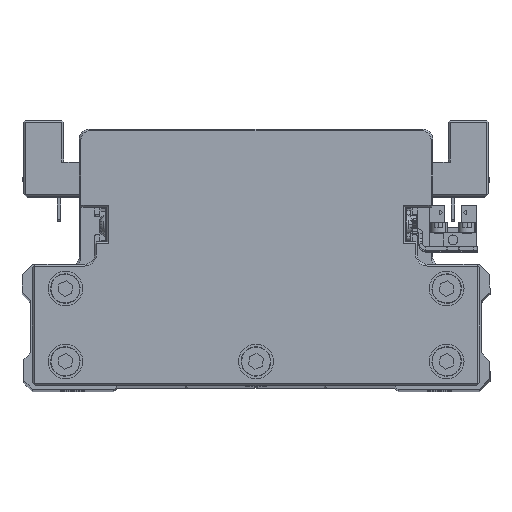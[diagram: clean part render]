
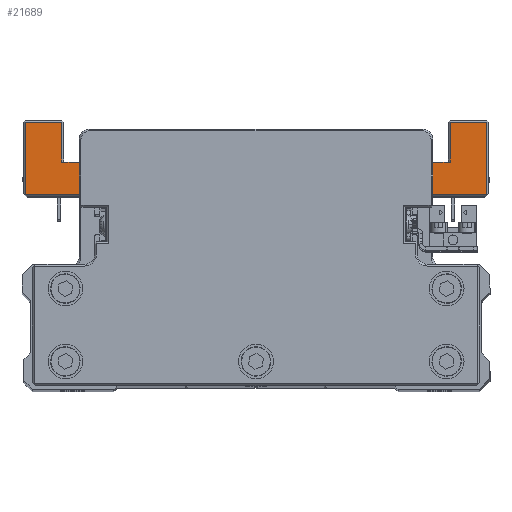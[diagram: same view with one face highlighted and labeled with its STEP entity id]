
A CAD part, top view. The second image highlights one B-rep face of the part: STEP entity #21689.
In plain terms, the highlighted planar face has unit normal (0, 0, 1) as drawn and (0, -1, 0) by its records, which use the part's own axes.
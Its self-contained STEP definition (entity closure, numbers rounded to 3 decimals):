
#135 = CARTESIAN_POINT ( 'NONE',  ( 66.5, -45., -43.5 ) ) ;
#175 = ORIENTED_EDGE ( 'NONE', *, *, #20794, .T. ) ;
#372 = VERTEX_POINT ( 'NONE', #32879 ) ;
#803 = DIRECTION ( 'NONE',  ( 0., 0., -1. ) ) ;
#1224 = EDGE_CURVE ( 'NONE', #29330, #22695, #23837, .T. ) ;
#1340 = VERTEX_POINT ( 'NONE', #36947 ) ;
#1462 = PLANE ( 'NONE',  #22823 ) ;
#1888 = LINE ( 'NONE', #14011, #21582 ) ;
#1950 = AXIS2_PLACEMENT_3D ( 'NONE', #17179, #29307, #2074 ) ;
#2074 = DIRECTION ( 'NONE',  ( 0., 0., -1. ) ) ;
#2322 = EDGE_CURVE ( 'NONE', #22695, #23311, #32211, .T. ) ;
#2438 = CARTESIAN_POINT ( 'NONE',  ( 67., -45., -64. ) ) ;
#2682 = CARTESIAN_POINT ( 'NONE',  ( -39.868, -45., -42.987 ) ) ;
#2896 = CARTESIAN_POINT ( 'NONE',  ( 46., -45., -54. ) ) ;
#3045 = VECTOR ( 'NONE', #33876, 1000. ) ;
#3275 = EDGE_CURVE ( 'NONE', #7203, #35174, #1888, .T. ) ;
#3943 = EDGE_CURVE ( 'NONE', #7203, #14654, #10500, .T. ) ;
#4073 = CARTESIAN_POINT ( 'NONE',  ( 40.066, -45., -43. ) ) ;
#4079 = VERTEX_POINT ( 'NONE', #17457 ) ;
#4678 = CARTESIAN_POINT ( 'NONE',  ( 46., -45., -52.5 ) ) ;
#4962 = CARTESIAN_POINT ( 'NONE',  ( -77.786, -45., -42.5 ) ) ;
#5493 = EDGE_CURVE ( 'NONE', #8004, #4079, #27388, .T. ) ;
#6017 = CARTESIAN_POINT ( 'NONE',  ( -46., -45., -52.5 ) ) ;
#6216 = CARTESIAN_POINT ( 'NONE',  ( -56., -45., -52.5 ) ) ;
#6358 = CARTESIAN_POINT ( 'NONE',  ( -66.5, -45., -43. ) ) ;
#6458 = CARTESIAN_POINT ( 'NONE',  ( 56., -45., -52.5 ) ) ;
#6870 = CARTESIAN_POINT ( 'NONE',  ( -55.5, -45., -52.5 ) ) ;
#6995 = DIRECTION ( 'NONE',  ( 1., 0., 0. ) ) ;
#7110 = EDGE_CURVE ( 'NONE', #23311, #12878, #29920, .T. ) ;
#7203 = VERTEX_POINT ( 'NONE', #6458 ) ;
#7554 = EDGE_CURVE ( 'NONE', #22427, #37991, #38649, .T. ) ;
#7661 = VERTEX_POINT ( 'NONE', #6216 ) ;
#7786 = CARTESIAN_POINT ( 'NONE',  ( 56., -45., -64. ) ) ;
#8004 = VERTEX_POINT ( 'NONE', #24221 ) ;
#8006 = ORIENTED_EDGE ( 'NONE', *, *, #17438, .T. ) ;
#8705 = DIRECTION ( 'NONE',  ( -0.991, 0., 0.132 ) ) ;
#8795 = CARTESIAN_POINT ( 'NONE',  ( -40.066, -45., -43. ) ) ;
#8898 = VECTOR ( 'NONE', #12269, 1000. ) ;
#9105 = EDGE_CURVE ( 'NONE', #35174, #372, #31925, .T. ) ;
#9511 = ORIENTED_EDGE ( 'NONE', *, *, #7554, .T. ) ;
#9595 = LINE ( 'NONE', #21741, #3045 ) ;
#9836 = LINE ( 'NONE', #21975, #27584 ) ;
#10109 = VECTOR ( 'NONE', #18153, 1000. ) ;
#10410 = AXIS2_PLACEMENT_3D ( 'NONE', #15918, #28048, #803 ) ;
#10500 = LINE ( 'NONE', #22640, #38673 ) ;
#10510 = LINE ( 'NONE', #22650, #17601 ) ;
#11393 = CARTESIAN_POINT ( 'NONE',  ( -66.5, -45., -64.5 ) ) ;
#11810 = ORIENTED_EDGE ( 'NONE', *, *, #33415, .T. ) ;
#11874 = ORIENTED_EDGE ( 'NONE', *, *, #5493, .T. ) ;
#12269 = DIRECTION ( 'NONE',  ( 0., 0., 1. ) ) ;
#12878 = VERTEX_POINT ( 'NONE', #22158 ) ;
#13281 = ORIENTED_EDGE ( 'NONE', *, *, #1224, .T. ) ;
#13347 = CARTESIAN_POINT ( 'NONE',  ( -66.5, -45., -64. ) ) ;
#13586 = CARTESIAN_POINT ( 'NONE',  ( 0., -45., 0. ) ) ;
#13653 = VECTOR ( 'NONE', #19002, 1000. ) ;
#14011 = CARTESIAN_POINT ( 'NONE',  ( 55.5, -45., -52.5 ) ) ;
#14018 = EDGE_CURVE ( 'NONE', #37892, #7661, #9836, .T. ) ;
#14306 = VERTEX_POINT ( 'NONE', #8795 ) ;
#14576 = DIRECTION ( 'NONE',  ( 1., 0., 0. ) ) ;
#14654 = VERTEX_POINT ( 'NONE', #7786 ) ;
#14826 = DIRECTION ( 'NONE',  ( -0.991, 0., -0.132 ) ) ;
#15041 = DIRECTION ( 'NONE',  ( 1., 0., 0. ) ) ;
#15918 = CARTESIAN_POINT ( 'NONE',  ( -40.066, -45., -41.5 ) ) ;
#16725 = ORIENTED_EDGE ( 'NONE', *, *, #7110, .T. ) ;
#16798 = DIRECTION ( 'NONE',  ( 0., 0., -1. ) ) ;
#16806 = EDGE_LOOP ( 'NONE', ( #37837, #16725, #8006, #11810, #9511, #34207, #24844, #26254, #39280, #17289, #27869, #38037, #37814, #35438, #11874, #175, #36682, #13281 ) ) ;
#17082 = DIRECTION ( 'NONE',  ( -1., 0., 0. ) ) ;
#17179 = CARTESIAN_POINT ( 'NONE',  ( 40.066, -45., -41.5 ) ) ;
#17289 = ORIENTED_EDGE ( 'NONE', *, *, #25473, .T. ) ;
#17438 = EDGE_CURVE ( 'NONE', #12878, #14306, #27569, .T. ) ;
#17457 = CARTESIAN_POINT ( 'NONE',  ( 66.5, -45., -43. ) ) ;
#17601 = VECTOR ( 'NONE', #34781, 1000. ) ;
#18153 = DIRECTION ( 'NONE',  ( 0., 0., 1. ) ) ;
#18543 = VECTOR ( 'NONE', #14826, 1000. ) ;
#18742 = CARTESIAN_POINT ( 'NONE',  ( -36.217, -45., -42.5 ) ) ;
#19002 = DIRECTION ( 'NONE',  ( -1., 0., 0. ) ) ;
#19093 = CIRCLE ( 'NONE', #1950, 1.5 ) ;
#19117 = VECTOR ( 'NONE', #16798, 1000. ) ;
#19524 = CARTESIAN_POINT ( 'NONE',  ( 39.868, -45., -42.987 ) ) ;
#20668 = VECTOR ( 'NONE', #8705, 1000. ) ;
#20794 = EDGE_CURVE ( 'NONE', #4079, #25640, #10510, .T. ) ;
#21582 = VECTOR ( 'NONE', #26160, 1000. ) ;
#21689 = ADVANCED_FACE ( 'NONE', ( #28704 ), #1462, .T. ) ;
#21741 = CARTESIAN_POINT ( 'NONE',  ( -66., -45., -43. ) ) ;
#21917 = CARTESIAN_POINT ( 'NONE',  ( -56., -45., -64. ) ) ;
#21918 = EDGE_CURVE ( 'NONE', #32499, #1340, #33264, .T. ) ;
#21975 = CARTESIAN_POINT ( 'NONE',  ( -56., -45., -52.5 ) ) ;
#22113 = LINE ( 'NONE', #34244, #35291 ) ;
#22158 = CARTESIAN_POINT ( 'NONE',  ( -39.868, -45., -42.987 ) ) ;
#22427 = VERTEX_POINT ( 'NONE', #6358 ) ;
#22640 = CARTESIAN_POINT ( 'NONE',  ( 56., -45., -64.5 ) ) ;
#22650 = CARTESIAN_POINT ( 'NONE',  ( 40.066, -45., -43. ) ) ;
#22695 = VERTEX_POINT ( 'NONE', #33119 ) ;
#22823 = AXIS2_PLACEMENT_3D ( 'NONE', #13586, #25743, #37868 ) ;
#23311 = VERTEX_POINT ( 'NONE', #18742 ) ;
#23526 = DIRECTION ( 'NONE',  ( 0., 0., -1. ) ) ;
#23837 = LINE ( 'NONE', #35975, #20668 ) ;
#24221 = CARTESIAN_POINT ( 'NONE',  ( 66.5, -45., -64. ) ) ;
#24628 = EDGE_CURVE ( 'NONE', #25640, #29330, #19093, .T. ) ;
#24844 = ORIENTED_EDGE ( 'NONE', *, *, #14018, .T. ) ;
#25473 = EDGE_CURVE ( 'NONE', #32499, #372, #30144, .T. ) ;
#25640 = VERTEX_POINT ( 'NONE', #4073 ) ;
#25743 = DIRECTION ( 'NONE',  ( 0., -1., 0. ) ) ;
#26160 = DIRECTION ( 'NONE',  ( -1., 0., 0. ) ) ;
#26254 = ORIENTED_EDGE ( 'NONE', *, *, #34142, .F. ) ;
#27388 = LINE ( 'NONE', #135, #8898 ) ;
#27569 = CIRCLE ( 'NONE', #10410, 1.5 ) ;
#27584 = VECTOR ( 'NONE', #34102, 1000. ) ;
#27869 = ORIENTED_EDGE ( 'NONE', *, *, #9105, .F. ) ;
#28048 = DIRECTION ( 'NONE',  ( 0., 1., 0. ) ) ;
#28704 = FACE_OUTER_BOUND ( 'NONE', #16806, .T. ) ;
#29307 = DIRECTION ( 'NONE',  ( 0., 1., 0. ) ) ;
#29330 = VERTEX_POINT ( 'NONE', #19524 ) ;
#29684 = LINE ( 'NONE', #2438, #34766 ) ;
#29920 = LINE ( 'NONE', #2682, #18543 ) ;
#29930 = VECTOR ( 'NONE', #15041, 1000. ) ;
#30144 = LINE ( 'NONE', #2896, #29930 ) ;
#30588 = EDGE_CURVE ( 'NONE', #37991, #37892, #22113, .T. ) ;
#30630 = VECTOR ( 'NONE', #23526, 1000. ) ;
#31925 = LINE ( 'NONE', #4678, #19117 ) ;
#32211 = LINE ( 'NONE', #4962, #34380 ) ;
#32499 = VERTEX_POINT ( 'NONE', #36578 ) ;
#32879 = CARTESIAN_POINT ( 'NONE',  ( 46., -45., -54. ) ) ;
#33119 = CARTESIAN_POINT ( 'NONE',  ( 36.217, -45., -42.5 ) ) ;
#33264 = LINE ( 'NONE', #6017, #10109 ) ;
#33415 = EDGE_CURVE ( 'NONE', #14306, #22427, #9595, .T. ) ;
#33876 = DIRECTION ( 'NONE',  ( -1., 0., 0. ) ) ;
#34102 = DIRECTION ( 'NONE',  ( 0., 0., 1. ) ) ;
#34121 = LINE ( 'NONE', #6870, #13653 ) ;
#34142 = EDGE_CURVE ( 'NONE', #1340, #7661, #34121, .T. ) ;
#34207 = ORIENTED_EDGE ( 'NONE', *, *, #30588, .T. ) ;
#34244 = CARTESIAN_POINT ( 'NONE',  ( -55.5, -45., -64. ) ) ;
#34380 = VECTOR ( 'NONE', #17082, 1000. ) ;
#34766 = VECTOR ( 'NONE', #14576, 1000. ) ;
#34772 = DIRECTION ( 'NONE',  ( 0., 0., -1. ) ) ;
#34781 = DIRECTION ( 'NONE',  ( -1., 0., 0. ) ) ;
#35174 = VERTEX_POINT ( 'NONE', #35602 ) ;
#35291 = VECTOR ( 'NONE', #6995, 1000. ) ;
#35438 = ORIENTED_EDGE ( 'NONE', *, *, #36459, .T. ) ;
#35602 = CARTESIAN_POINT ( 'NONE',  ( 46., -45., -52.5 ) ) ;
#35975 = CARTESIAN_POINT ( 'NONE',  ( 25.802, -45., -41.111 ) ) ;
#36459 = EDGE_CURVE ( 'NONE', #14654, #8004, #29684, .T. ) ;
#36578 = CARTESIAN_POINT ( 'NONE',  ( -46., -45., -54. ) ) ;
#36682 = ORIENTED_EDGE ( 'NONE', *, *, #24628, .T. ) ;
#36947 = CARTESIAN_POINT ( 'NONE',  ( -46., -45., -52.5 ) ) ;
#37814 = ORIENTED_EDGE ( 'NONE', *, *, #3943, .T. ) ;
#37837 = ORIENTED_EDGE ( 'NONE', *, *, #2322, .T. ) ;
#37868 = DIRECTION ( 'NONE',  ( 0., 0., -1. ) ) ;
#37892 = VERTEX_POINT ( 'NONE', #21917 ) ;
#37991 = VERTEX_POINT ( 'NONE', #13347 ) ;
#38037 = ORIENTED_EDGE ( 'NONE', *, *, #3275, .F. ) ;
#38649 = LINE ( 'NONE', #11393, #30630 ) ;
#38673 = VECTOR ( 'NONE', #34772, 1000. ) ;
#39280 = ORIENTED_EDGE ( 'NONE', *, *, #21918, .F. ) ;
